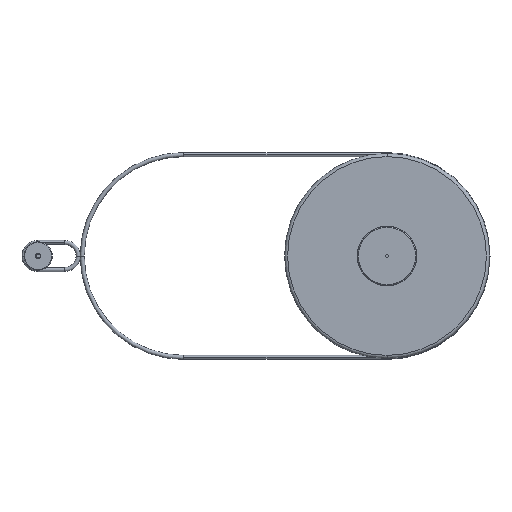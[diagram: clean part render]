
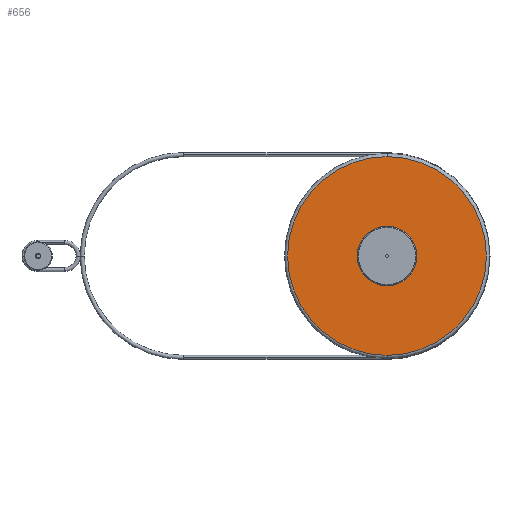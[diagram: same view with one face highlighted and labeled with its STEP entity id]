
A CAD part, left-side view. The second image highlights one B-rep face of the part: STEP entity #656.
In plain terms, the highlighted planar face has unit normal (-1, 0, 0) as drawn and (0, 0, -1) by its records, which use the part's own axes.
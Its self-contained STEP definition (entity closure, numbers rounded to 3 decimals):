
#169 = DIRECTION ( 'NONE',  ( 0., 0., -1. ) ) ;
#359 = EDGE_CURVE ( 'NONE', #783, #4272, #3035, .T. ) ;
#379 = CIRCLE ( 'NONE', #2154, 44. ) ;
#656 = ADVANCED_FACE ( 'NONE', ( #4081, #1749 ), #5873, .T. ) ;
#783 = VERTEX_POINT ( 'NONE', #2113 ) ;
#1085 = DIRECTION ( 'NONE',  ( 0., 0., -1. ) ) ;
#1152 = AXIS2_PLACEMENT_3D ( 'NONE', #1705, #1686, #3080 ) ;
#1219 = EDGE_CURVE ( 'NONE', #4272, #783, #379, .T. ) ;
#1425 = AXIS2_PLACEMENT_3D ( 'NONE', #4970, #1085, #2988 ) ;
#1581 = ORIENTED_EDGE ( 'NONE', *, *, #2598, .T. ) ;
#1686 = DIRECTION ( 'NONE',  ( 0., 0., -1. ) ) ;
#1705 = CARTESIAN_POINT ( 'NONE',  ( 0., 0., -22.002 ) ) ;
#1749 = FACE_OUTER_BOUND ( 'NONE', #3294, .T. ) ;
#1802 = CIRCLE ( 'NONE', #5330, 146.954 ) ;
#1837 = VERTEX_POINT ( 'NONE', #5078 ) ;
#2113 = CARTESIAN_POINT ( 'NONE',  ( -44., 0., -22.002 ) ) ;
#2154 = AXIS2_PLACEMENT_3D ( 'NONE', #4897, #4383, #2916 ) ;
#2304 = EDGE_LOOP ( 'NONE', ( #4694, #5771 ) ) ;
#2598 = EDGE_CURVE ( 'NONE', #1837, #3311, #1802, .T. ) ;
#2609 = CARTESIAN_POINT ( 'NONE',  ( 0., 0., -22.002 ) ) ;
#2916 = DIRECTION ( 'NONE',  ( -1., 0., 0. ) ) ;
#2988 = DIRECTION ( 'NONE',  ( -1., 0., 0. ) ) ;
#3035 = CIRCLE ( 'NONE', #1152, 44. ) ;
#3062 = CARTESIAN_POINT ( 'NONE',  ( 0., 0., -22.002 ) ) ;
#3080 = DIRECTION ( 'NONE',  ( -1., 0., 0. ) ) ;
#3161 = CIRCLE ( 'NONE', #4105, 146.954 ) ;
#3294 = EDGE_LOOP ( 'NONE', ( #4705, #1581 ) ) ;
#3311 = VERTEX_POINT ( 'NONE', #4580 ) ;
#4081 = FACE_BOUND ( 'NONE', #2304, .T. ) ;
#4105 = AXIS2_PLACEMENT_3D ( 'NONE', #3062, #169, #5982 ) ;
#4272 = VERTEX_POINT ( 'NONE', #5858 ) ;
#4330 = EDGE_CURVE ( 'NONE', #3311, #1837, #3161, .T. ) ;
#4383 = DIRECTION ( 'NONE',  ( 0., 0., -1. ) ) ;
#4491 = DIRECTION ( 'NONE',  ( -1., 0., 0. ) ) ;
#4580 = CARTESIAN_POINT ( 'NONE',  ( -146.954, 0., -22.002 ) ) ;
#4694 = ORIENTED_EDGE ( 'NONE', *, *, #359, .F. ) ;
#4705 = ORIENTED_EDGE ( 'NONE', *, *, #4330, .T. ) ;
#4897 = CARTESIAN_POINT ( 'NONE',  ( 0., 0., -22.002 ) ) ;
#4970 = CARTESIAN_POINT ( 'NONE',  ( -146.954, 0., -22.002 ) ) ;
#5078 = CARTESIAN_POINT ( 'NONE',  ( 146.954, 0., -22.002 ) ) ;
#5330 = AXIS2_PLACEMENT_3D ( 'NONE', #2609, #5901, #4491 ) ;
#5771 = ORIENTED_EDGE ( 'NONE', *, *, #1219, .F. ) ;
#5858 = CARTESIAN_POINT ( 'NONE',  ( 44., 0., -22.002 ) ) ;
#5873 = PLANE ( 'NONE',  #1425 ) ;
#5901 = DIRECTION ( 'NONE',  ( 0., 0., -1. ) ) ;
#5982 = DIRECTION ( 'NONE',  ( -1., 0., 0. ) ) ;
